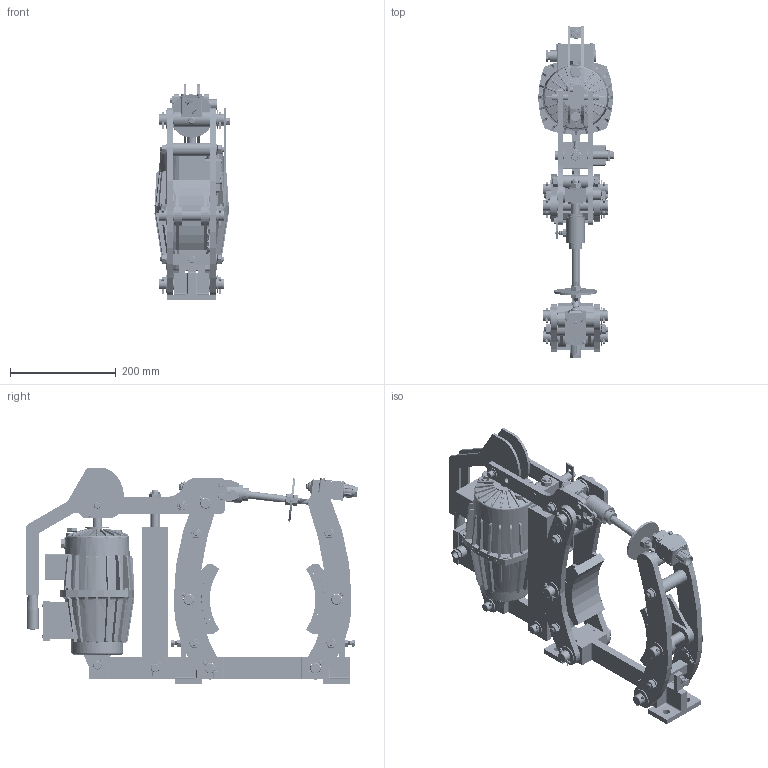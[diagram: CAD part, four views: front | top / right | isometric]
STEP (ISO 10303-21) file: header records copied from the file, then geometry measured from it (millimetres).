
FILE_DESCRIPTION((''),'2;1');
FILE_NAME('4459_204_551_E00002','2018-01-29T',('VORO'),(''),'CREO PARAMETRIC BY PTC INC, 2017170','CREO PARAMETRIC BY PTC INC, 2017170','');
FILE_SCHEMA(('CONFIG_CONTROL_DESIGN'));
Products named in the file (1): 4459_204_551_E00002
Bounding box: 142.53 x 628.5 x 408.13 mm (x, y, z)
Surface area: 1234681.5 mm2 (no closed solid volume)
Topology: 0 solids, 3182 shells, 3877 faces, 24502 edges, 23037 vertices
Faces by surface type: plane 1525, cylinder 1297, cone 799, torus 235, bspline 18, sphere 3
Entity records: 409406 total; most frequent: CARTESIAN_POINT 124469, PRESENTATION_STYLE_ASSIGNMENT 31492, STYLED_ITEM 27616, DIRECTION 27233, ORIENTED_EDGE 25860, CURVE_STYLE 24435, EDGE_CURVE 24435, VERTEX_POINT 23017
